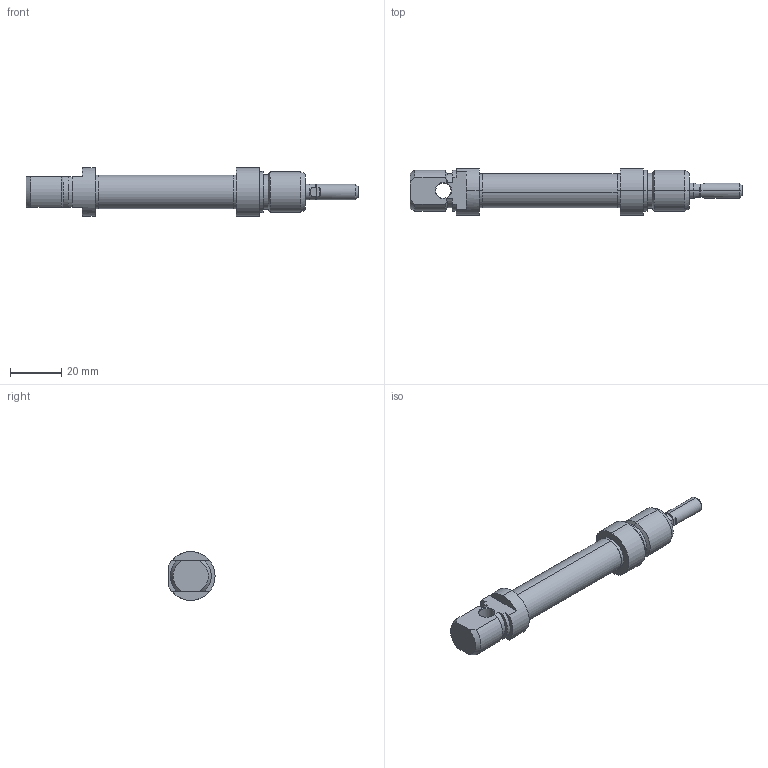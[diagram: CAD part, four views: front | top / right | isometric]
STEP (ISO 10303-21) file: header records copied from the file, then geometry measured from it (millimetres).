
FILE_DESCRIPTION (( 'STEP AP203' ), '1' );
FILE_NAME ('MB0120025A.step', '2012-10-17T16:32:12', ( '' ), ( '' ), 'SwSTEP 2.0', 'SolidWorks 2012', '' );
FILE_SCHEMA (( 'CONFIG_CONTROL_DESIGN' ));
Length unit declared in the file: millimetre
Products named in the file (1): MB0120025A
Bounding box: 129.5 x 18 x 19 mm (x, y, z)
Volume: 16663.4 mm3; surface area: 8315.2 mm2
Topology: 1 solids, 2 shells, 102 faces, 241 edges, 153 vertices
Faces by surface type: cylinder 45, plane 33, cone 24
Entity records: 3104 total; most frequent: CARTESIAN_POINT 617, DIRECTION 537, ORIENTED_EDGE 478, EDGE_CURVE 239, AXIS2_PLACEMENT_3D 215, VERTEX_POINT 153, EDGE_LOOP 118, CIRCLE 112
